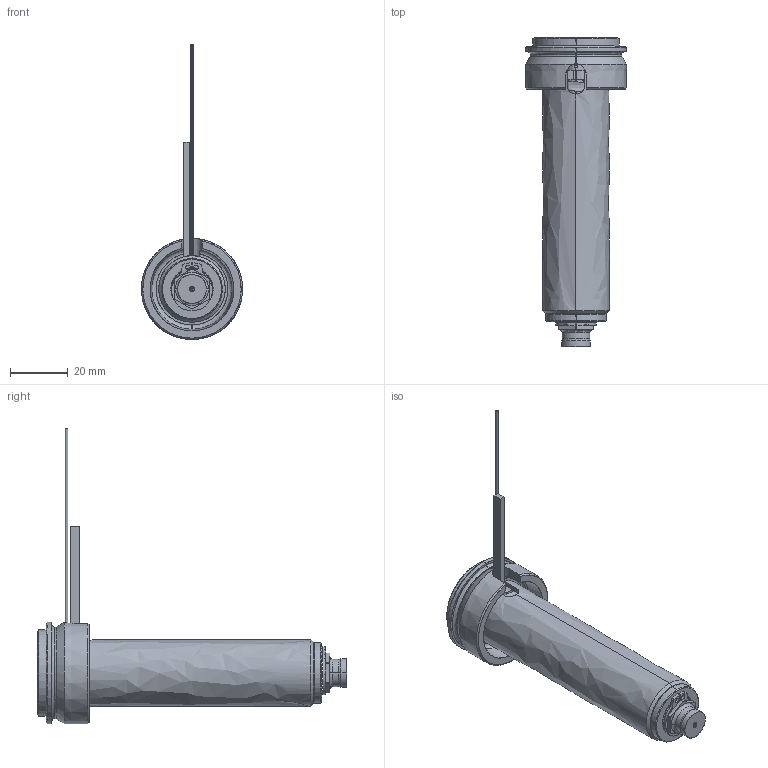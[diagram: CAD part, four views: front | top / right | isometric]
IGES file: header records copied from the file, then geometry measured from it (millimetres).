
Start section: SolidWorks IGES file using analytic representation for surfaces
Global section: file name: C:\Documents and Settings\ws-20\Desktop\TEM\UGEP3152-M-A-1 [Øf-0.70 P-0 ØC-6.0].IGS; native system: SolidWorks 2012; preprocessor: SolidWorks 2012; author: ws-20; date: 120404.080641; units: millimetre
Bounding box: 35 x 107 x 102.1 mm (x, y, z)
Surface area: 17991.9 mm2 (no closed solid volume)
Topology: 0 solids, 0 shells, 117 faces, 1668 edges, 1668 vertices
Faces by surface type: revolution 69, bspline 48
